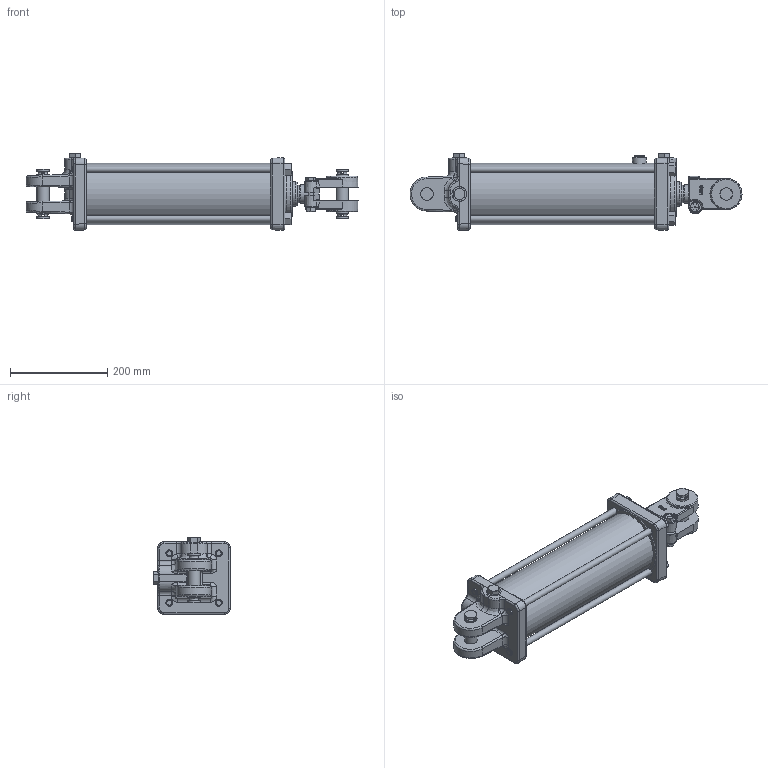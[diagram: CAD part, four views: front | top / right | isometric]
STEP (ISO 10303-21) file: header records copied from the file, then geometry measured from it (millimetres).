
FILE_DESCRIPTION((''),'2;1');
FILE_NAME('C:\Vault\Workspace\Vest\PMS-AM-2546V.stp','2009-02-10T08:16:46',('newtonb'),(''),'Autodesk Inventor 2008','Autodesk Inventor 2008','');
FILE_SCHEMA(('AUTOMOTIVE_DESIGN { 1 0 10303 214 1 1 1 1 }'));
Length unit declared in the file: inch
Products named in the file (28): PMS-AM-2546V; 062000080V; 052000095V; 200300181V; 142000004V; 082000092V; 082000091V; 211100272V; 011100737V; 100000326V; 100000325V; 220000223V; 170002105V; 072000192V; 220000211V; 240064450V; 240061244V; 240000244V; 240011112V; 240000024V; 250014200V; 240020009V; 170301176AV; 170201176V; 220000107V; 200300104V; 200300040V; 190400004V
Assembly tree (35 placements, depth 3):
  PMS-AM-2546V
    062000080V
      052000095V
      200300181V
    142000004V
    082000092V
      082000091V
      211100272V
    011100737V
    100000326V
      100000325V
      220000223V
      170002105V
    072000192V
    220000211V
    240064450V
    240061244V  x2
    240000244V  x2
    240011112V
    240000024V
    250014200V
    240020009V
    170301176AV  x4
      170201176V
      220000107V
    200300104V
    200300040V  x3
    190400004V  x2
Bounding box: 683.37 x 157.66 x 157.66 mm (x, y, z)
Volume: 4380578.2 mm3; surface area: 821578.8 mm2
Topology: 34 solids, 34 shells, 1123 faces, 2526 edges, 1439 vertices
Faces by surface type: bspline 358, plane 274, cylinder 267, cone 163, torus 32, sphere 29
Full cylindrical faces by diameter (mm): 1.575 x1, 2.769 x1, 5.156 x2, 5.159 x2, 11.113 x1, 11.906 x2, 12.7 x4, 16.764 x3, 19.05 x4, 22.352 x1, 25.4 x6, 25.781 x2, 25.895 x2, 28.524 x1, 28.575 x1, 28.651 x1, 31.115 x1, 35.331 x1, 37.897 x1, 50.8 x2, 51.054 x1, 51.41 x1, 51.752 x1, 53.848 x1, 55.563 x1, 55.568 x1, 58.521 x1, 59.373 x1, 60.325 x1, 63.5 x1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
Entity records: 41013 total; most frequent: CARTESIAN_POINT 21011, ORIENTED_EDGE 3918, DIRECTION 3777, EDGE_CURVE 1959, AXIS2_PLACEMENT_3D 1605, VERTEX_POINT 1217, EDGE_LOOP 1212, FACE_OUTER_BOUND 965
